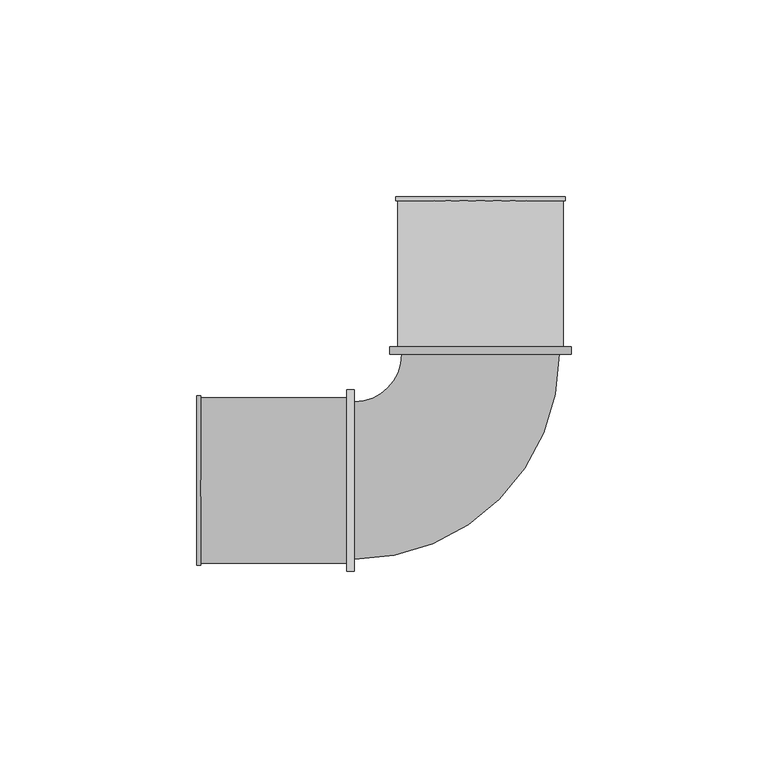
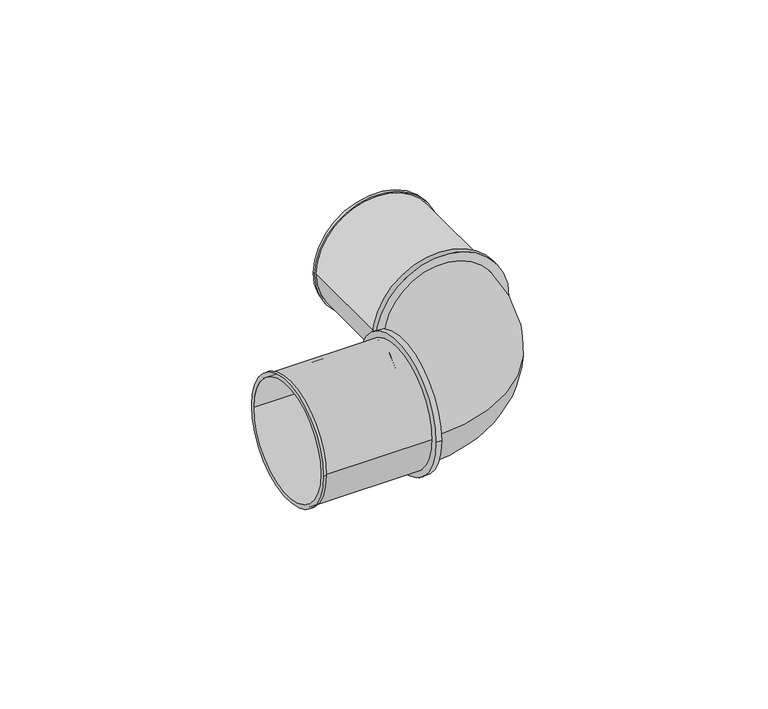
"""IFC4 building model written with IfcOpenShell, lengths in millimetres: pipe fitting geometry, SuperPipe_Elbow_SPressPlus : SuperPipe_Elbow_SPressPlus."""

from ifc_helpers import new_model, si_unit, point, frame, origin, origin_2d, place, context, project, spatial, polyline, circle_curve, ellipse_curve, trimmed, segment, composite_curve, outline, extrude, source, transform, mapped, element, save
from ifc_brep_helpers import plane_surface, cylinder_surface, revolved_surface, advanced_brep


def pipe_fitting_ee53dc26(model_context):
    return source(origin(), model_context, "Body", "SolidModel", [
        extrude(outline(composite_curve([segment(trimmed(circle_curve(origin_2d(), 23.0), [point((-23.0, 0.0))], [point((23.0, 0.0))], False, "CARTESIAN"), True, "CONTINUOUS"), segment(trimmed(circle_curve(origin_2d(), 23.0), [point((23.0, 0.0))], [point((-23.0, 0.0))], False, "CARTESIAN"), True, "CONTINUOUS")], self_intersect=False), holes=[composite_curve([segment(trimmed(circle_curve(origin_2d(), 20.0), [point((-20.0, 0.0))], [point((20.0, 0.0))], True, "CARTESIAN"), True, "CONTINUOUS"), segment(trimmed(circle_curve(origin_2d(), 20.0), [point((20.0, 0.0))], [point((-20.0, 0.0))], True, "CARTESIAN"), True, "CONTINUOUS")], self_intersect=False)]), frame((-34.0, 0.0, 0.0), z_axis=(1.0, 0.0, 0.0), x_axis=(0.0, 1.0, 0.0)), (0.0, 0.0, 1.0), 2.0),
        extrude(outline(composite_curve([segment(trimmed(circle_curve(origin_2d(), 23.0), [point((0.0, 23.0))], [point((0.0, -23.0))], False, "CARTESIAN"), True, "CONTINUOUS"), segment(trimmed(circle_curve(origin_2d(), 23.0), [point((0.0, -23.0))], [point((0.0, 23.0))], False, "CARTESIAN"), True, "CONTINUOUS")], self_intersect=False), holes=[composite_curve([segment(trimmed(circle_curve(origin_2d(), 20.0), [point((0.0, -20.0))], [point((0.0, 20.0))], True, "CARTESIAN"), True, "CONTINUOUS"), segment(trimmed(circle_curve(origin_2d(), 20.0), [point((0.0, 20.0))], [point((0.0, -20.0))], True, "CARTESIAN"), True, "CONTINUOUS")], self_intersect=False)]), frame((0.0, 32.0, 0.0), z_axis=(0.0, 1.0, 0.0), x_axis=(0.0, 0.0, 1.0)), (0.0, 0.0, 1.0), 2.0),
        advanced_brep(
        [(-72.0, -21.5, 0.0), (-72.0, 21.5, 0.0), (-72.0, -20.0, 0.0), (-72.0, 20.0, 0.0), (-34.0, -21.0, 0.0), (-34.0, 21.0, 0.0), (-34.0, -20.0, 0.0), (-34.0, 20.0, 0.0), (-71.0, 21.0, 0.0), (-71.0, -21.0, 0.0), (-71.0, -21.5, 0.0), (-71.0, 21.5, 0.0)],
        [
            (0, 1, circle_curve(frame((-72.0, 0.0, 0.0), z_axis=(-1.0, 0.0, 0.0), x_axis=(0.0, 1.0, 0.0)), 21.5)),
            (1, 0, circle_curve(frame((-72.0, 0.0, 0.0), z_axis=(-1.0, 0.0, 0.0), x_axis=(0.0, 1.0, 0.0)), 21.5)),
            (2, 3, circle_curve(frame((-72.0, 0.0, 0.0), z_axis=(1.0, 0.0, 0.0), x_axis=(0.0, 1.0, 0.0)), 20.0)),
            (3, 2, circle_curve(frame((-72.0, 0.0, 0.0), z_axis=(1.0, 0.0, 0.0), x_axis=(0.0, 1.0, 0.0)), 20.0)),
            (4, 5, circle_curve(frame((-34.0, 0.0, 0.0), z_axis=(1.0, 0.0, 0.0), x_axis=(0.0, 1.0, 0.0)), 21.0)),
            (5, 4, circle_curve(frame((-34.0, 0.0, 0.0), z_axis=(1.0, 0.0, 0.0), x_axis=(0.0, 1.0, 0.0)), 21.0)),
            (6, 7, circle_curve(frame((-34.0, 0.0, 0.0), z_axis=(-1.0, 0.0, 0.0), x_axis=(0.0, 1.0, 0.0)), 20.0)),
            (7, 6, circle_curve(frame((-34.0, 0.0, 0.0), z_axis=(-1.0, 0.0, 0.0), x_axis=(0.0, 1.0, 0.0)), 20.0)),
            (2, 6),
            (7, 3),
            (5, 8),
            (8, 9, circle_curve(frame((-71.0, 0.0, 0.0), z_axis=(1.0, 0.0, 0.0), x_axis=(0.0, 1.0, 0.0)), 21.0)),
            (9, 4),
            (9, 8, circle_curve(frame((-71.0, 0.0, 0.0), z_axis=(1.0, 0.0, 0.0), x_axis=(0.0, 1.0, 0.0)), 21.0)),
            (10, 11, circle_curve(frame((-71.0, 0.0, 0.0), z_axis=(1.0, 0.0, 0.0), x_axis=(0.0, 1.0, 0.0)), 21.5)),
            (11, 10, circle_curve(frame((-71.0, 0.0, 0.0), z_axis=(1.0, 0.0, 0.0), x_axis=(0.0, 1.0, 0.0)), 21.5)),
            (0, 10),
            (11, 1),
        ],
        [
            plane_surface(frame((-72.0, 0.0, 0.0), z_axis=(-1.0, 0.0, 0.0), x_axis=(0.0, 0.0, 1.0))),
            plane_surface(frame((-34.0, 0.0, 0.0), z_axis=(1.0, 0.0, 0.0), x_axis=(0.0, 0.0, 1.0))),
            revolved_surface(polyline([(-34.0, 20.0, 0.0), (-72.0, 20.0, 0.0)]), (-72.0, 0.0, 0.0), (1.0, 0.0, 0.0)),
            cylinder_surface(frame((-72.0, 0.0, 0.0), z_axis=(-1.0, 0.0, 0.0), x_axis=(0.0, 1.0, 0.0)), 21.0),
            plane_surface(frame((-71.0, 0.0, 0.0), z_axis=(1.0, 0.0, 0.0), x_axis=(0.0, 0.0, 1.0))),
            cylinder_surface(frame((-72.0, 0.0, 0.0), z_axis=(-1.0, 0.0, 0.0), x_axis=(0.0, 1.0, 0.0)), 21.5),
        ],
        [
            (0, [[1, 2], [3, 4]]),
            (1, [[5, 6], [7, 8]]),
            (2, [[-3, 9, -8, 10]]),
            (2, [[-4, -10, -7, -9]]),
            (3, [[-6, 11, 12, 13]]),
            (3, [[-5, -13, 14, -11]]),
            (4, [[15, 16], [-12, -14]]),
            (5, [[-1, 17, -16, 18]]),
            (5, [[-2, -18, -15, -17]]),
        ],
    ),
        advanced_brep(
        [(21.0, 34.0, 0.0), (-21.0, 34.0, 0.0), (20.0, 34.0, 0.0), (-20.0, 34.0, 0.0), (21.5, 72.0, 0.0), (-21.5, 72.0, 0.0), (20.0, 72.0, 0.0), (-20.0, 72.0, 0.0), (21.0, 71.0, 0.0), (-21.0, 71.0, 0.0), (21.5, 71.0, 0.0), (-21.5, 71.0, 0.0)],
        [
            (0, 1, circle_curve(frame((0.0, 34.0, 0.0), z_axis=(0.0, -1.0, 0.0), x_axis=(-1.0, 0.0, 0.0)), 21.0)),
            (1, 0, circle_curve(frame((0.0, 34.0, 0.0), z_axis=(0.0, -1.0, 0.0), x_axis=(-1.0, 0.0, 0.0)), 21.0)),
            (2, 3, circle_curve(frame((0.0, 34.0, 0.0), z_axis=(0.0, 1.0, 0.0), x_axis=(-1.0, 0.0, 0.0)), 20.0)),
            (3, 2, circle_curve(frame((0.0, 34.0, 0.0), z_axis=(0.0, 1.0, 0.0), x_axis=(-1.0, 0.0, 0.0)), 20.0)),
            (4, 5, circle_curve(frame((0.0, 72.0, 0.0), z_axis=(0.0, 1.0, 0.0), x_axis=(-1.0, 0.0, 0.0)), 21.5)),
            (5, 4, circle_curve(frame((0.0, 72.0, 0.0), z_axis=(0.0, 1.0, 0.0), x_axis=(-1.0, 0.0, 0.0)), 21.5)),
            (6, 7, circle_curve(frame((0.0, 72.0, 0.0), z_axis=(0.0, -1.0, 0.0), x_axis=(-1.0, 0.0, 0.0)), 20.0)),
            (7, 6, circle_curve(frame((0.0, 72.0, 0.0), z_axis=(0.0, -1.0, 0.0), x_axis=(-1.0, 0.0, 0.0)), 20.0)),
            (0, 8),
            (8, 9, circle_curve(frame((0.0, 71.0, 0.0), z_axis=(0.0, -1.0, 0.0), x_axis=(-1.0, 0.0, 0.0)), 21.0)),
            (9, 1),
            (9, 8, circle_curve(frame((0.0, 71.0, 0.0), z_axis=(0.0, -1.0, 0.0), x_axis=(-1.0, 0.0, 0.0)), 21.0)),
            (2, 6),
            (7, 3),
            (10, 11, circle_curve(frame((0.0, 71.0, 0.0), z_axis=(0.0, -1.0, 0.0), x_axis=(-1.0, 0.0, 0.0)), 21.5)),
            (11, 10, circle_curve(frame((0.0, 71.0, 0.0), z_axis=(0.0, -1.0, 0.0), x_axis=(-1.0, 0.0, 0.0)), 21.5)),
            (11, 5),
            (4, 10),
        ],
        [
            plane_surface(frame((0.0, 34.0, 0.0), z_axis=(0.0, -1.0, 0.0), x_axis=(0.0, 0.0, 1.0))),
            plane_surface(frame((0.0, 72.0, 0.0), z_axis=(0.0, 1.0, 0.0), x_axis=(0.0, 0.0, 1.0))),
            cylinder_surface(frame((0.0, 34.0, 0.0), z_axis=(0.0, -1.0, 0.0), x_axis=(-1.0, 0.0, 0.0)), 21.0),
            revolved_surface(polyline([(-20.0, 72.0, 0.0), (-20.0, 34.0, 0.0)]), (0.0, 34.0, 0.0), (0.0, 1.0, 0.0)),
            plane_surface(frame((0.0, 71.0, 0.0), z_axis=(0.0, -1.0, 0.0), x_axis=(0.0, 0.0, 1.0))),
            cylinder_surface(frame((0.0, 71.0, 0.0), z_axis=(0.0, -1.0, 0.0), x_axis=(-1.0, 0.0, 0.0)), 21.5),
        ],
        [
            (0, [[1, 2], [3, 4]]),
            (1, [[5, 6], [7, 8]]),
            (2, [[-1, 9, 10, 11]]),
            (2, [[-2, -11, 12, -9]]),
            (3, [[-3, 13, -8, 14]]),
            (3, [[-4, -14, -7, -13]]),
            (4, [[15, 16], [-10, -12]]),
            (5, [[-16, 17, -5, 18]]),
            (5, [[-15, -18, -6, -17]]),
        ],
    ),
        advanced_brep(
        [(-32.0, -20.0, 0.0), (-32.0, 20.0, 0.0), (20.0, 32.0, 0.0), (-20.0, 32.0, 0.0)],
        [
            (0, 1, circle_curve(frame((-32.0, 0.0, 0.0), z_axis=(-1.0, 0.0, 0.0), x_axis=(0.0, 1.0, 0.0)), 20.0)),
            (1, 0, circle_curve(frame((-32.0, 0.0, 0.0), z_axis=(-1.0, 0.0, 0.0), x_axis=(0.0, 1.0, 0.0)), 20.0)),
            (2, 3, circle_curve(frame((0.0, 32.0, 0.0), z_axis=(0.0, 1.0, 0.0), x_axis=(-1.0, 0.0, 0.0)), 20.0)),
            (3, 2, circle_curve(frame((0.0, 32.0, 0.0), z_axis=(0.0, 1.0, 0.0), x_axis=(-1.0, 0.0, 0.0)), 20.0)),
            (3, 1, circle_curve(frame((-32.0, 32.0, 0.0), z_axis=(0.0, 0.0, -1.0), x_axis=(0.0, -1.0, 0.0)), 12.0)),
            (0, 2, circle_curve(frame((-32.0, 32.0, 0.0), z_axis=(0.0, 0.0, 1.0), x_axis=(0.0, -1.0, 0.0)), 52.0)),
        ],
        [
            plane_surface(frame((-32.0, 0.0, 0.0), z_axis=(-1.0, 0.0, 0.0), x_axis=(0.0, 0.0, 1.0))),
            plane_surface(frame((0.0, 32.0, 0.0), z_axis=(0.0, 1.0, 0.0), x_axis=(0.0, 0.0, 1.0))),
            revolved_surface(trimmed(ellipse_curve(frame((-32.0, 0.0, 0.0), z_axis=(-1.0, 0.0, 0.0), x_axis=(0.0, 1.0, 0.0)), 20.0, 20.0), [point((-32.0, -20.0, 0.0))], [point((-32.0, 20.0, 0.0))], True, "CARTESIAN"), (-32.0, 32.0, 0.0), (0.0, 0.0, 1.0)),
            revolved_surface(trimmed(ellipse_curve(frame((-32.0, 0.0, 0.0), z_axis=(-1.0, 0.0, 0.0), x_axis=(0.0, 1.0, 0.0)), 20.0, 20.0), [point((-32.0, 20.0, 0.0))], [point((-32.0, -20.0, 0.0))], True, "CARTESIAN"), (-32.0, 32.0, 0.0), (0.0, 0.0, 1.0)),
        ],
        [
            (0, [[1, 2]]),
            (1, [[3, 4]]),
            (2, [[5, -1, 6, -4]]),
            (3, [[-6, -2, -5, -3]]),
        ],
    ),
    ])


if __name__ == "__main__":
    model = new_model("IFC4")
    model_context = context("Model", 3, world=origin())
    ifc_project = project(units=[si_unit("LENGTHUNIT", "METRE", prefix="MILLI")], contexts=[model_context])
    site = spatial("IfcSite", under=ifc_project)
    building = spatial("IfcBuilding", under=site)
    placement = place(None, origin())
    pipe_fitting_shape = pipe_fitting_ee53dc26(model_context)
    element("IfcPipeFitting", 1, ObjectType="SuperPipe_Elbow_SPressPlus : SuperPipe_Elbow_SPressPlus", at=placement, inside=building, context=model_context, shape_type="MappedRepresentation", body=[
        mapped(pipe_fitting_shape, transform((0.0, 0.0, 0.0), x_axis=(1.0, 0.0, 0.0), y_axis=(0.0, 1.0, 0.0), z_axis=(0.0, 0.0, 1.0))),
    ])
    save(model, "model.ifc")
